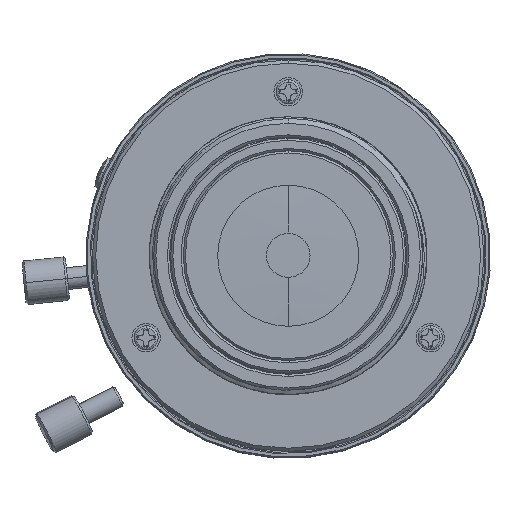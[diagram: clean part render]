
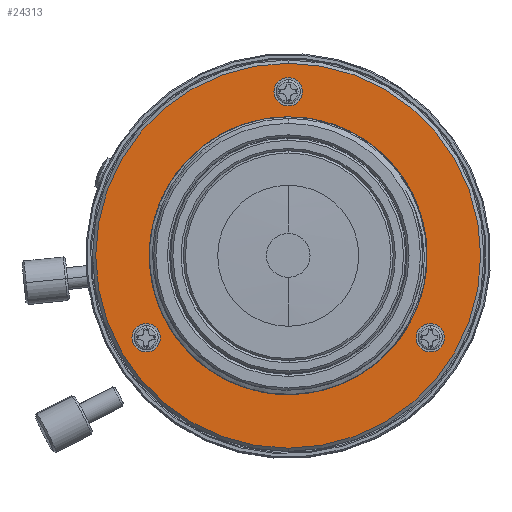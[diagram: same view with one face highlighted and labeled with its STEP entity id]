
A CAD part, top view. The second image highlights one B-rep face of the part: STEP entity #24313.
In plain terms, the highlighted planar face has unit normal (0, 0, 1) as drawn and (0, -1, 0) by its records, which use the part's own axes.
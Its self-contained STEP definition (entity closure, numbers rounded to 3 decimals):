
#22976=CARTESIAN_POINT('',(0.,-2.654,0.));
#22977=DIRECTION('',(0.,1.,0.));
#22978=DIRECTION('',(0.,0.,-1.));
#22979=AXIS2_PLACEMENT_3D('',#22976,#22977,#22978);
#22981=CARTESIAN_POINT('',(0.,-2.654,0.));
#22982=DIRECTION('',(0.,-1.,0.));
#22983=DIRECTION('',(0.,0.,-1.));
#22984=AXIS2_PLACEMENT_3D('',#22981,#22982,#22983);
#22986=CARTESIAN_POINT('',(0.,-2.654,0.));
#22987=DIRECTION('',(0.,1.,0.));
#22988=DIRECTION('',(0.,0.,-1.));
#22989=AXIS2_PLACEMENT_3D('',#22986,#22987,#22988);
#22991=CARTESIAN_POINT('',(0.,-2.654,0.));
#22992=DIRECTION('',(0.,1.,0.));
#22993=DIRECTION('',(0.,0.,1.));
#22994=AXIS2_PLACEMENT_3D('',#22991,#22992,#22993);
#22996=CARTESIAN_POINT('',(0.,-2.654,-15.));
#22997=DIRECTION('',(0.,-1.,0.));
#22998=DIRECTION('',(0.,0.,-1.));
#22999=AXIS2_PLACEMENT_3D('',#22996,#22997,#22998);
#23001=CARTESIAN_POINT('',(0.,-2.654,-15.));
#23002=DIRECTION('',(0.,-1.,0.));
#23003=DIRECTION('',(0.,0.,1.));
#23004=AXIS2_PLACEMENT_3D('',#23001,#23002,#23003);
#23006=CARTESIAN_POINT('',(12.99,-2.654,7.5));
#23007=DIRECTION('',(0.,-1.,0.));
#23008=DIRECTION('',(0.866,0.,0.5));
#23009=AXIS2_PLACEMENT_3D('',#23006,#23007,#23008);
#23011=CARTESIAN_POINT('',(12.99,-2.654,7.5));
#23012=DIRECTION('',(0.,-1.,0.));
#23013=DIRECTION('',(-0.866,0.,-0.5));
#23014=AXIS2_PLACEMENT_3D('',#23011,#23012,#23013);
#23016=CARTESIAN_POINT('',(-12.99,-2.654,7.5));
#23017=DIRECTION('',(0.,-1.,0.));
#23018=DIRECTION('',(-0.866,0.,0.5));
#23019=AXIS2_PLACEMENT_3D('',#23016,#23017,#23018);
#23021=CARTESIAN_POINT('',(-12.99,-2.654,7.5));
#23022=DIRECTION('',(0.,-1.,0.));
#23023=DIRECTION('',(0.866,0.,-0.5));
#23024=AXIS2_PLACEMENT_3D('',#23021,#23022,#23023);
#24057=CARTESIAN_POINT('',(0.,-2.654,-12.1));
#24058=CARTESIAN_POINT('',(0.,-2.654,12.1));
#24059=VERTEX_POINT('',#24057);
#24060=VERTEX_POINT('',#24058);
#24065=CARTESIAN_POINT('',(0.,-2.654,-17.6));
#24066=CARTESIAN_POINT('',(0.,-2.654,17.6));
#24067=VERTEX_POINT('',#24065);
#24068=VERTEX_POINT('',#24066);
#24105=CARTESIAN_POINT('',(0.,-2.654,-16.3));
#24106=CARTESIAN_POINT('',(0.,-2.654,-13.7));
#24107=VERTEX_POINT('',#24105);
#24108=VERTEX_POINT('',#24106);
#24121=CARTESIAN_POINT('',(14.116,-2.654,8.15));
#24122=CARTESIAN_POINT('',(11.865,-2.654,6.85));
#24123=VERTEX_POINT('',#24121);
#24124=VERTEX_POINT('',#24122);
#24137=CARTESIAN_POINT('',(-14.116,-2.654,8.15));
#24138=CARTESIAN_POINT('',(-11.865,-2.654,6.85));
#24139=VERTEX_POINT('',#24137);
#24140=VERTEX_POINT('',#24138);
#24280=CARTESIAN_POINT('',(0.,-2.654,0.));
#24281=DIRECTION('',(0.,-1.,0.));
#24282=DIRECTION('',(0.,0.,1.));
#24283=AXIS2_PLACEMENT_3D('',#24280,#24281,#24282);
#24284=PLANE('',#24283);
#24285=ORIENTED_EDGE('',*,*,#24260,.T.);
#24286=ORIENTED_EDGE('',*,*,#24274,.T.);
#24287=EDGE_LOOP('',(#24285,#24286));
#24288=FACE_OUTER_BOUND('',#24287,.F.);
#24290=ORIENTED_EDGE('',*,*,#24289,.F.);
#24292=ORIENTED_EDGE('',*,*,#24291,.T.);
#24293=EDGE_LOOP('',(#24290,#24292));
#24294=FACE_BOUND('',#24293,.F.);
#24296=ORIENTED_EDGE('',*,*,#24295,.T.);
#24298=ORIENTED_EDGE('',*,*,#24297,.T.);
#24299=EDGE_LOOP('',(#24296,#24298));
#24300=FACE_BOUND('',#24299,.F.);
#24302=ORIENTED_EDGE('',*,*,#24301,.T.);
#24304=ORIENTED_EDGE('',*,*,#24303,.T.);
#24305=EDGE_LOOP('',(#24302,#24304));
#24306=FACE_BOUND('',#24305,.F.);
#24308=ORIENTED_EDGE('',*,*,#24307,.T.);
#24310=ORIENTED_EDGE('',*,*,#24309,.T.);
#24311=EDGE_LOOP('',(#24308,#24310));
#24312=FACE_BOUND('',#24311,.F.);
#24313=ADVANCED_FACE('',(#24288,#24294,#24300,#24306,#24312),#24284,.T.);
#22980=CIRCLE('',#22979,12.1);
#22985=CIRCLE('',#22984,12.1);
#22990=CIRCLE('',#22989,17.6);
#22995=CIRCLE('',#22994,17.6);
#23000=CIRCLE('',#22999,1.3);
#23005=CIRCLE('',#23004,1.3);
#23010=CIRCLE('',#23009,1.3);
#23015=CIRCLE('',#23014,1.3);
#23020=CIRCLE('',#23019,1.3);
#23025=CIRCLE('',#23024,1.3);
#24260=EDGE_CURVE('',#24067,#24068,#22990,.T.);
#24274=EDGE_CURVE('',#24068,#24067,#22995,.T.);
#24289=EDGE_CURVE('',#24059,#24060,#22980,.T.);
#24291=EDGE_CURVE('',#24059,#24060,#22985,.T.);
#24295=EDGE_CURVE('',#24107,#24108,#23000,.T.);
#24297=EDGE_CURVE('',#24108,#24107,#23005,.T.);
#24301=EDGE_CURVE('',#24123,#24124,#23010,.T.);
#24303=EDGE_CURVE('',#24124,#24123,#23015,.T.);
#24307=EDGE_CURVE('',#24139,#24140,#23020,.T.);
#24309=EDGE_CURVE('',#24140,#24139,#23025,.T.);
